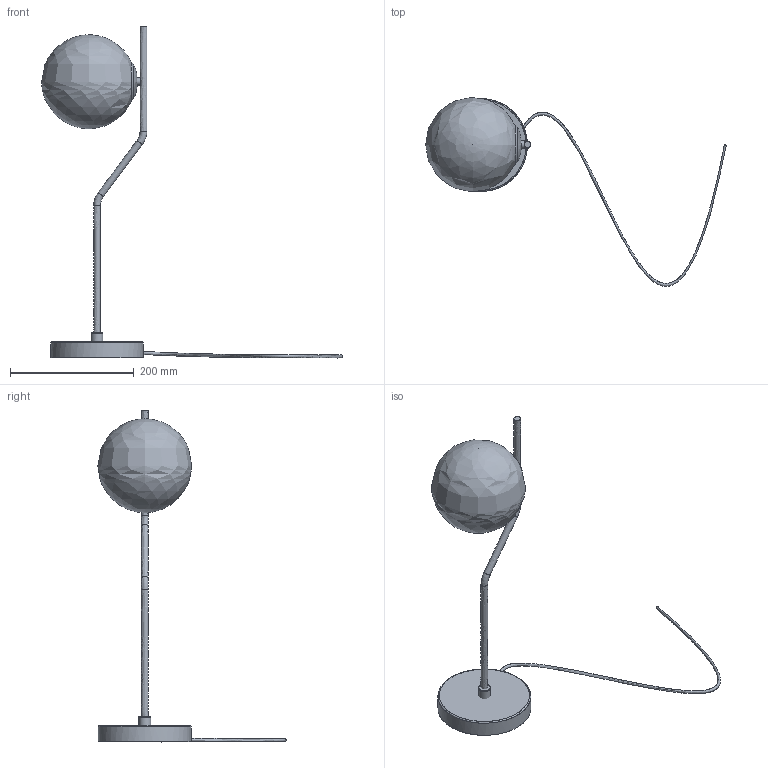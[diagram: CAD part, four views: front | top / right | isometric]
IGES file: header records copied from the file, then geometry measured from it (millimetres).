
Global section: file name: C:\Users\EQUIPO\Desktop\COLECCIONES ACB MODELADAS 3D OK\MAUI\maui-8163-sobremesa (IGES).igs; native system: Rhinoceros ( Oct  8 2013 ); preprocessor: Trout Lake IGES 012 Oct  8 2013; date: 190207.114351; units: millimetre
Bounding box: 485.5 x 304.04 x 536.2 mm (x, y, z)
Surface area: 161143.8 mm2 (no closed solid volume)
Topology: 0 solids, 0 shells, 91 faces, 551 edges, 481 vertices
Faces by surface type: bspline 91
